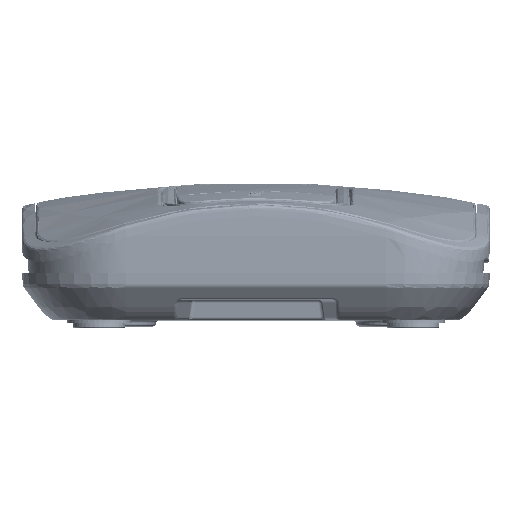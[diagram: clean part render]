
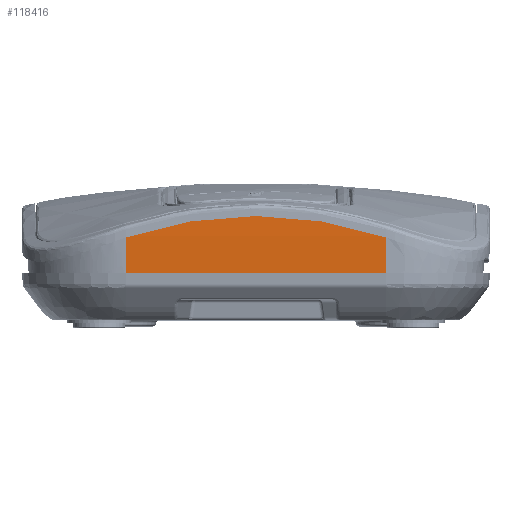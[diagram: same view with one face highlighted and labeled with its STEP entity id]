
A CAD part, front view. The second image highlights one B-rep face of the part: STEP entity #118416.
In plain terms, the highlighted cylindrical face has radius 2209.16 mm (diameter 4418.33 mm), a partial arc.
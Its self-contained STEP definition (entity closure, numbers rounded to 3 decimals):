
#99892=CARTESIAN_POINT('',(-25.,-53.9,
116.907));
#99893=CARTESIAN_POINT('',(-22.309,-53.901,
117.804));
#99894=CARTESIAN_POINT('',(-16.866,-53.901,
119.298));
#99895=CARTESIAN_POINT('',(-8.474,-53.9,
120.658));
#99896=CARTESIAN_POINT('',(0.001,-53.9,
121.111));
#99897=CARTESIAN_POINT('',(8.475,-53.9,
120.656));
#99898=CARTESIAN_POINT('',(16.867,-53.901,
119.297));
#99899=CARTESIAN_POINT('',(22.31,-53.901,
117.804));
#99900=CARTESIAN_POINT('',(25.,-53.9,
116.906));
#100193=DIRECTION('',(0.,-0.035,0.999));
#100194=VECTOR('',#100193,8.15);
#100195=CARTESIAN_POINT('',(-25.003,-53.616,
108.762));
#100196=LINE('',#100195,#100194);
#103340=DIRECTION('',(0.,0.035,-0.999));
#103341=VECTOR('',#103340,8.149);
#103342=CARTESIAN_POINT('',(25.,-53.9,
116.906));
#103343=LINE('',#103342,#103341);
#103362=CARTESIAN_POINT('',(25.003,-53.616,
108.762));
#103375=CARTESIAN_POINT('',(-25.003,-53.616,
108.762));
#103376=CARTESIAN_POINT('',(-21.669,-53.578,
108.762));
#103377=CARTESIAN_POINT('',(-15.002,-53.516,
108.762));
#103378=CARTESIAN_POINT('',(-5.005,-53.472,
108.762));
#103379=CARTESIAN_POINT('',(5.002,-53.472,
108.762));
#103380=CARTESIAN_POINT('',(14.999,-53.516,
108.762));
#103381=CARTESIAN_POINT('',(21.669,-53.578,
108.762));
#103382=CARTESIAN_POINT('',(25.003,-53.616,
108.762));
#108005=VERTEX_POINT('',#103362);
#108006=VERTEX_POINT('',#103375);
#108523=CARTESIAN_POINT('',(25.,-53.9,
116.906));
#108524=VERTEX_POINT('',#108523);
#108894=VERTEX_POINT('',#99892);
#118405=CARTESIAN_POINT('',(-0.001,-2261.718,
43.865));
#118406=DIRECTION('',(0.,-0.035,0.999));
#118407=DIRECTION('',(0.011,0.999,0.035));
#118408=AXIS2_PLACEMENT_3D('',#118405,#118406,#118407);
#118409=CYLINDRICAL_SURFACE('',#118408,2209.164);
#118410=ORIENTED_EDGE('',*,*,#118397,.T.);
#118411=ORIENTED_EDGE('',*,*,#109701,.F.);
#118412=ORIENTED_EDGE('',*,*,#113580,.T.);
#118413=ORIENTED_EDGE('',*,*,#112355,.T.);
#118414=EDGE_LOOP('',(#118410,#118411,#118412,#118413));
#118415=FACE_OUTER_BOUND('',#118414,.F.);
#118416=ADVANCED_FACE('',(#118415),#118409,.F.);
#99901=B_SPLINE_CURVE_WITH_KNOTS('',3,(#99892,#99893,#99894,#99895,#99896,
#99897,#99898,#99899,#99900),.UNSPECIFIED.,.F.,.F.,(4,1,1,1,1,1,4),(0.,
0.167,0.333,0.5,0.667,0.833,
1.),.UNSPECIFIED.);
#103383=B_SPLINE_CURVE_WITH_KNOTS('',3,(#103375,#103376,#103377,#103378,#103379,
#103380,#103381,#103382),.UNSPECIFIED.,.F.,.F.,(4,1,1,1,1,4),(0.,0.2,0.4,
0.6,0.8,1.),.UNSPECIFIED.);
#109701=EDGE_CURVE('',#108006,#108005,#103383,.T.);
#112355=EDGE_CURVE('',#108894,#108524,#99901,.T.);
#113580=EDGE_CURVE('',#108006,#108894,#100196,.T.);
#118397=EDGE_CURVE('',#108524,#108005,#103343,.T.);
